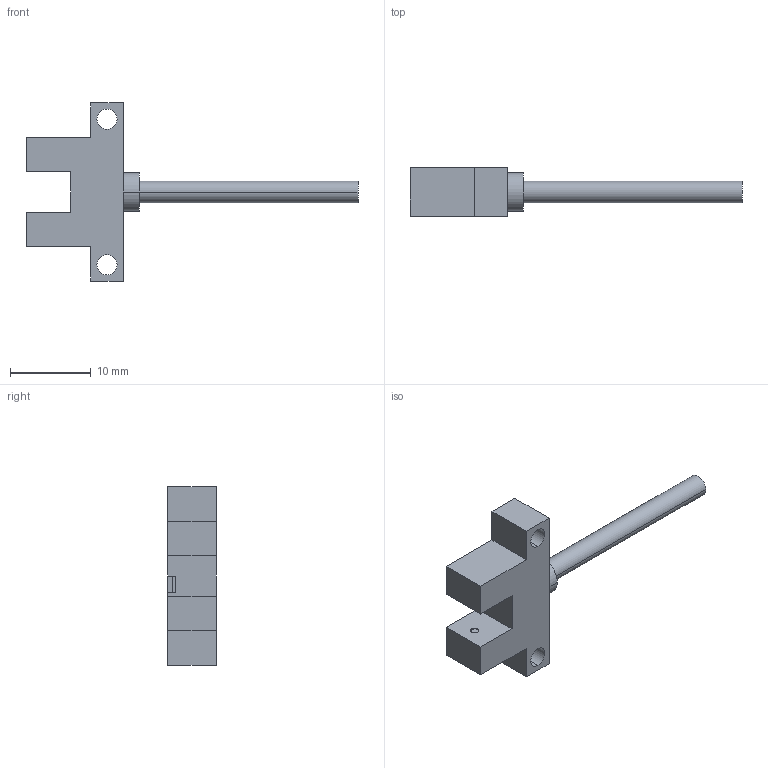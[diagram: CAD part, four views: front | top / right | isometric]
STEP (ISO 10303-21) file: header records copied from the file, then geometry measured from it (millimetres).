
FILE_DESCRIPTION (( 'STEP AP203' ), '1' );
FILE_NAME ('PM-K24.STEP', '2005-09-05T08:24:54', ( '' ), ( '' ), 'SwSTEP 2.0', 'SolidWorks 2004073', '' );
FILE_SCHEMA (( 'CONFIG_CONTROL_DESIGN' ));
Length unit declared in the file: millimetre
Products named in the file (1): PM-K24
Bounding box: 41 x 6 x 22 mm (x, y, z)
Volume: 1134.6 mm3; surface area: 1147.2 mm2
Topology: 1 solids, 1 shells, 36 faces, 90 edges, 60 vertices
Faces by surface type: plane 24, cylinder 12
Entity records: 1163 total; most frequent: DIRECTION 188, CARTESIAN_POINT 187, ORIENTED_EDGE 180, EDGE_CURVE 90, VECTOR 66, LINE 66, AXIS2_PLACEMENT_3D 61, VERTEX_POINT 60
